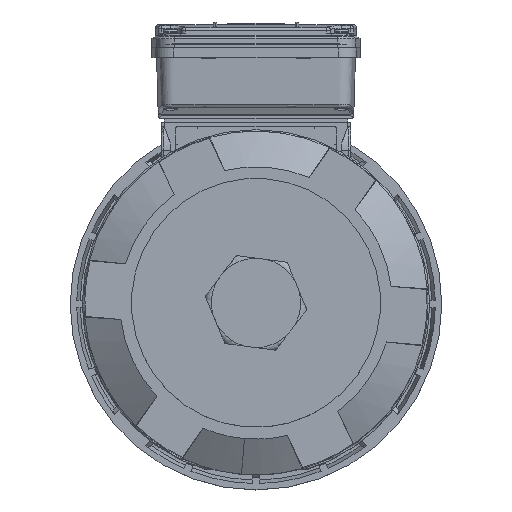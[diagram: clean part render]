
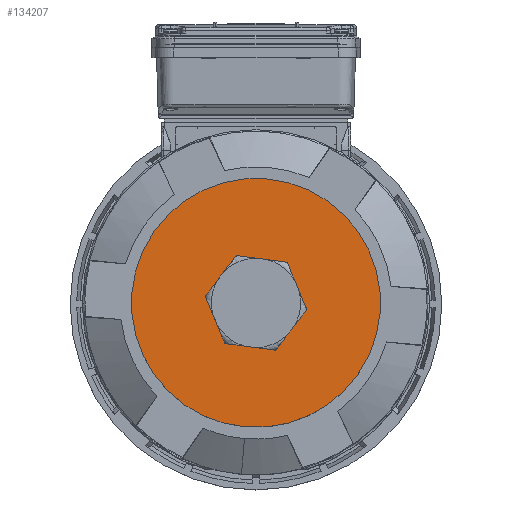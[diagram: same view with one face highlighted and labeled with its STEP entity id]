
A CAD part, top view. The second image highlights one B-rep face of the part: STEP entity #134207.
In plain terms, the highlighted planar face has unit normal (0, 0, 1) as drawn and (1, 0, 0) by its records, which use the part's own axes.
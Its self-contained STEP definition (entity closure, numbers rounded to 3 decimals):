
#9407 = DIRECTION ( 'NONE',  ( 1., 0., 0. ) ) ;
#18719 = VERTEX_POINT ( 'NONE', #134560 ) ;
#20181 = CARTESIAN_POINT ( 'NONE',  ( 121.5, 0., -17.5 ) ) ;
#21276 = AXIS2_PLACEMENT_3D ( 'NONE', #74090, #9407, #84976 ) ;
#24370 = CIRCLE ( 'NONE', #21276, 17.5 ) ;
#25350 = ORIENTED_EDGE ( 'NONE', *, *, #37667, .F. ) ;
#27088 = DIRECTION ( 'NONE',  ( -1., 0., 0. ) ) ;
#30525 = CARTESIAN_POINT ( 'NONE',  ( 121.5, 0., 0. ) ) ;
#33700 = FACE_BOUND ( 'NONE', #128863, .T. ) ;
#37667 = EDGE_CURVE ( 'NONE', #100511, #79457, #127444, .T. ) ;
#39634 = VERTEX_POINT ( 'NONE', #20181 ) ;
#39722 = DIRECTION ( 'NONE',  ( -1., 0., 0. ) ) ;
#41433 = DIRECTION ( 'NONE',  ( 0., 0., -1. ) ) ;
#43826 = EDGE_LOOP ( 'NONE', ( #102763, #25350 ) ) ;
#45945 = AXIS2_PLACEMENT_3D ( 'NONE', #46063, #121589, #56894 ) ;
#46063 = CARTESIAN_POINT ( 'NONE',  ( 121.5, 0., 0. ) ) ;
#49608 = AXIS2_PLACEMENT_3D ( 'NONE', #30525, #106110, #41433 ) ;
#51693 = AXIS2_PLACEMENT_3D ( 'NONE', #91789, #27088, #102617 ) ;
#56894 = DIRECTION ( 'NONE',  ( 0., 0., 1. ) ) ;
#62249 = EDGE_CURVE ( 'NONE', #18719, #39634, #84972, .T. ) ;
#74090 = CARTESIAN_POINT ( 'NONE',  ( 121.5, 0., 0. ) ) ;
#79457 = VERTEX_POINT ( 'NONE', #137478 ) ;
#84972 = CIRCLE ( 'NONE', #49608, 17.5 ) ;
#84976 = DIRECTION ( 'NONE',  ( 0., 0., -1. ) ) ;
#91027 = AXIS2_PLACEMENT_3D ( 'NONE', #104410, #39722, #115301 ) ;
#91195 = FACE_OUTER_BOUND ( 'NONE', #43826, .T. ) ;
#91789 = CARTESIAN_POINT ( 'NONE',  ( 121.5, 25.4, 0. ) ) ;
#100511 = VERTEX_POINT ( 'NONE', #132982 ) ;
#102610 = EDGE_CURVE ( 'NONE', #79457, #100511, #118705, .T. ) ;
#102617 = DIRECTION ( 'NONE',  ( 0., 0., 1. ) ) ;
#102763 = ORIENTED_EDGE ( 'NONE', *, *, #102610, .F. ) ;
#104410 = CARTESIAN_POINT ( 'NONE',  ( 121.5, 0., 0. ) ) ;
#106110 = DIRECTION ( 'NONE',  ( 1., 0., 0. ) ) ;
#113067 = PLANE ( 'NONE',  #51693 ) ;
#113839 = ORIENTED_EDGE ( 'NONE', *, *, #62249, .F. ) ;
#115301 = DIRECTION ( 'NONE',  ( 0., 0., 1. ) ) ;
#118705 = CIRCLE ( 'NONE', #45945, 67. ) ;
#121589 = DIRECTION ( 'NONE',  ( -1., 0., 0. ) ) ;
#127444 = CIRCLE ( 'NONE', #91027, 67. ) ;
#128863 = EDGE_LOOP ( 'NONE', ( #113839, #133453 ) ) ;
#132982 = CARTESIAN_POINT ( 'NONE',  ( 121.5, 0., -67. ) ) ;
#133453 = ORIENTED_EDGE ( 'NONE', *, *, #138243, .F. ) ;
#134207 = ADVANCED_FACE ( 'NONE', ( #91195, #33700 ), #113067, .F. ) ;
#134560 = CARTESIAN_POINT ( 'NONE',  ( 121.5, 0., 17.5 ) ) ;
#137478 = CARTESIAN_POINT ( 'NONE',  ( 121.5, 0., 67. ) ) ;
#138243 = EDGE_CURVE ( 'NONE', #39634, #18719, #24370, .T. ) ;
